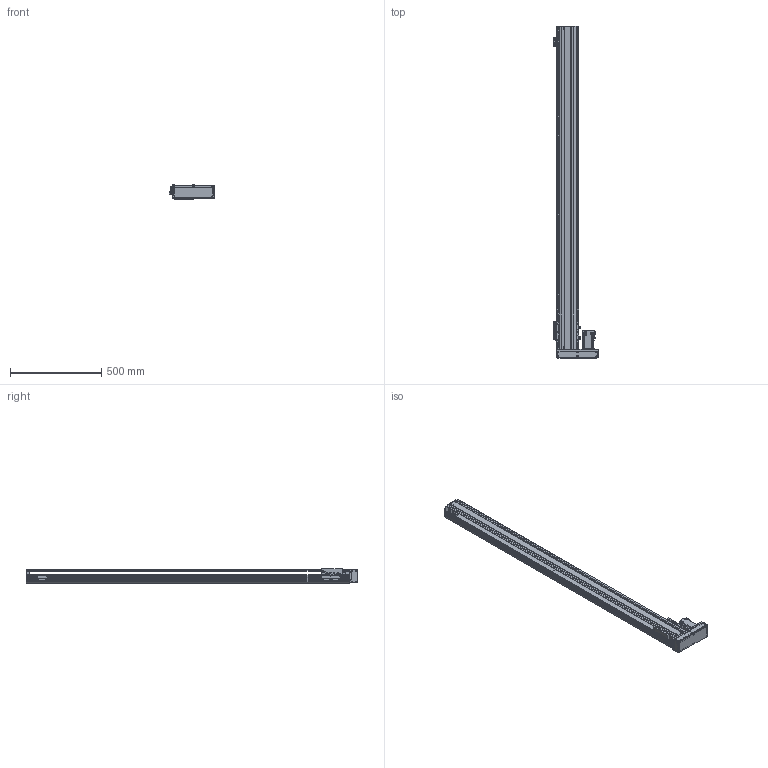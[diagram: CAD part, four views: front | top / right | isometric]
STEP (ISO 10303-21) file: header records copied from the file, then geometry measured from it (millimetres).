
FILE_DESCRIPTION(/* description */ ('MANUFACTURE'),/* implementation_level */ '2;1');
FILE_NAME(/* name */ '\\192.168.0.160\disk1\HAN SHIN Master\B-설계부문\C-표준\B-2024년\BC02-표준도면\+로봇 개선표준도면\표준 승인도 작업 폴더\3D\HG120\HG120병렬\우병렬\HG120-R40-N-1600-L10.stp',/* time_stamp */ '2024-02-15T10:24:56+09:00',/* author */ ('User'),/* organization */ (''),/* preprocessor_version */ 'ST-DEVELOPER v18.1',/* originating_system */ 'Autodesk Inventor 2022',/* authorisation */ 'LIP');
FILE_SCHEMA (('AUTOMOTIVE_DESIGN { 1 0 10303 214 3 1 1 }'));
Products named in the file (22): HG120-L40-N-0500-R10; HR120 S BASE; HR(HG) 120,130 FRONT BLOCK; HR(HG) 120,130 FRONT BLOCK_1; HR120 FRONT COVER; HG5UPCOV003; ORP6; HG120 TABLE-N; HR120 STOPPER; HR120 LR MOTOR PLATE (400W)-사출; MOTOR PLATE - 200W; hg-kr43_; 화살표; HR120 LR BELT COVER; HR160 ACRYL COVER - 1; HR160 ACRYL COVER - 1_1; HR160 ACRYL COVER - 1_2; HR120 SENSOR DOG; hsr_ftht_A-M6F_grease_nipple_joint; NIPPLE CAP(신규); SENSOR BRK(EE-SX674A); EE_SX674A
Assembly tree (39 placements, depth 2):
  HG120-L40-N-0500-R10
    HR120 S BASE
    HR(HG) 120,130 FRONT BLOCK
    HR(HG) 120,130 FRONT BLOCK_1
    HR120 FRONT COVER
    HG5UPCOV003
    ORP6  x5
    hsr_ftht_A-M6F_grease_nipple_joint  x5
    NIPPLE CAP(신규)  x5
    HG120 TABLE-N
    HR120 STOPPER
    HR120 LR MOTOR PLATE (400W)-사출
    MOTOR PLATE - 200W
    hg-kr43_
    화살표  x2
    HR120 LR BELT COVER
    HR160 ACRYL COVER - 1
    HR160 ACRYL COVER - 1_1
    HR160 ACRYL COVER - 1_2  x2
    SENSOR BRK(EE-SX674A)  x3
    EE_SX674A  x3
    HR120 SENSOR DOG
Bounding box: 250 x 1823 x 80 mm (x, y, z)
Volume: 4618815.1 mm3; surface area: 1869590.5 mm2
Topology: 39 solids, 39 shells, 3579 faces, 10243 edges, 6759 vertices
Faces by surface type: plane 2407, cylinder 846, cone 231, sphere 40, torus 35, bspline 20
Full cylindrical faces by diameter (mm): 2.459 x50, 3 x4, 3.242 x48, 3.4 x20, 3.5 x6, 4.134 x46, 4.5 x56, 4.917 x6, 5 x26, 5.5 x35, 5.6 x5, 5.8 x4, 5.9 x8, 6 x9, 6.5 x10, 6.6 x2, 7 x4, 7.5 x16, 8 x4, 9 x6, 9.5 x23, 14 x1, 17 x1, 20 x1, 22 x1, 24 x1, 28 x1, 32 x2, 33.7 x1, 50 x2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
Entity records: 103498 total; most frequent: CARTESIAN_POINT 21357, ORIENTED_EDGE 17174, DIRECTION 15950, EDGE_CURVE 8587, LINE 6682, VECTOR 6682, VERTEX_POINT 5739, AXIS2_PLACEMENT_3D 4634
